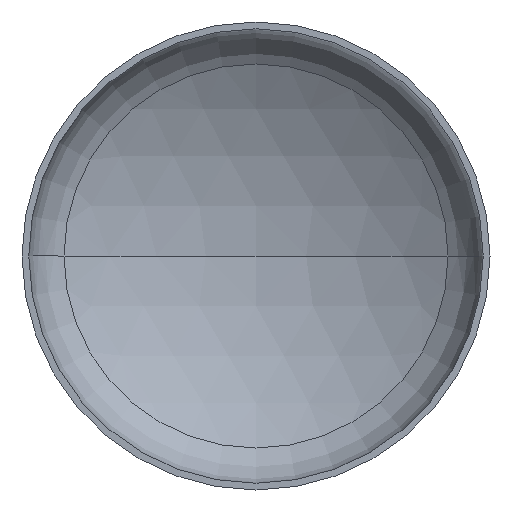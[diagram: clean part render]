
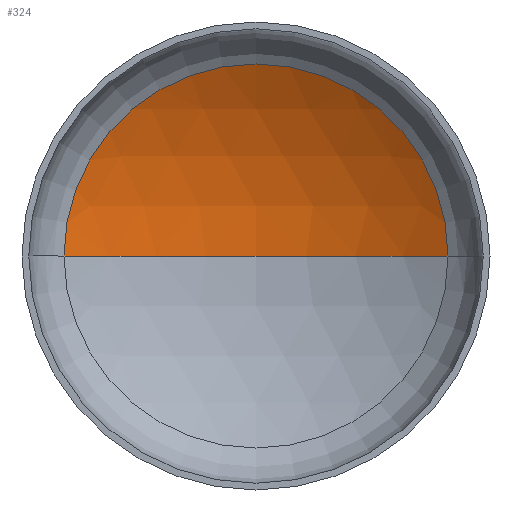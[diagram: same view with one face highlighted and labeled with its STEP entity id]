
A CAD part, front view. The second image highlights one B-rep face of the part: STEP entity #324.
In plain terms, the highlighted spherical face has radius 5600 mm.
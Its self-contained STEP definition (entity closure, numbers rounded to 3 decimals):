
#8 = AXIS2_PLACEMENT_3D ( 'NONE', #373, #66, #112 ) ;
#10 = VERTEX_POINT ( 'NONE', #238 ) ;
#47 = AXIS2_PLACEMENT_3D ( 'NONE', #191, #192, #187 ) ;
#48 = AXIS2_PLACEMENT_3D ( 'NONE', #176, #283, #279 ) ;
#50 = AXIS2_PLACEMENT_3D ( 'NONE', #274, #272, #267 ) ;
#51 = CIRCLE ( 'NONE', #47, 5600. ) ;
#55 = VERTEX_POINT ( 'NONE', #264 ) ;
#66 = DIRECTION ( 'NONE',  ( 0., 0., -1. ) ) ;
#92 = EDGE_CURVE ( 'NONE', #55, #152, #254, .T. ) ;
#95 = EDGE_CURVE ( 'NONE', #10, #55, #196, .T. ) ;
#98 = EDGE_CURVE ( 'NONE', #10, #152, #51, .T. ) ;
#99 = ORIENTED_EDGE ( 'NONE', *, *, #92, .T. ) ;
#111 = ORIENTED_EDGE ( 'NONE', *, *, #95, .T. ) ;
#112 = DIRECTION ( 'NONE',  ( -1., 0., 0. ) ) ;
#131 = FACE_OUTER_BOUND ( 'NONE', #165, .T. ) ;
#146 = SPHERICAL_SURFACE ( 'NONE', #8, 5600. ) ;
#152 = VERTEX_POINT ( 'NONE', #218 ) ;
#165 = EDGE_LOOP ( 'NONE', ( #221, #111, #99 ) ) ;
#176 = CARTESIAN_POINT ( 'NONE',  ( 0., -3805.371, 0. ) ) ;
#187 = DIRECTION ( 'NONE',  ( 1., 0., 0. ) ) ;
#191 = CARTESIAN_POINT ( 'NONE',  ( 0., -3805.371, 0. ) ) ;
#192 = DIRECTION ( 'NONE',  ( 0., 0., 1. ) ) ;
#196 = CIRCLE ( 'NONE', #48, 5600. ) ;
#218 = CARTESIAN_POINT ( 'NONE',  ( -2871.858, 1002.168, 0. ) ) ;
#221 = ORIENTED_EDGE ( 'NONE', *, *, #98, .F. ) ;
#238 = CARTESIAN_POINT ( 'NONE',  ( 0., 1794.629, 0. ) ) ;
#254 = CIRCLE ( 'NONE', #50, 2871.858 ) ;
#264 = CARTESIAN_POINT ( 'NONE',  ( 2871.858, 1002.168, 0. ) ) ;
#267 = DIRECTION ( 'NONE',  ( 1., 0., 0. ) ) ;
#272 = DIRECTION ( 'NONE',  ( 0., -1., 0. ) ) ;
#274 = CARTESIAN_POINT ( 'NONE',  ( 0., 1002.168, 0. ) ) ;
#279 = DIRECTION ( 'NONE',  ( -1., 0., 0. ) ) ;
#283 = DIRECTION ( 'NONE',  ( 0., 0., -1. ) ) ;
#324 = ADVANCED_FACE ( 'NONE', ( #131 ), #146, .F. ) ;
#373 = CARTESIAN_POINT ( 'NONE',  ( 0., -3805.371, 0. ) ) ;
